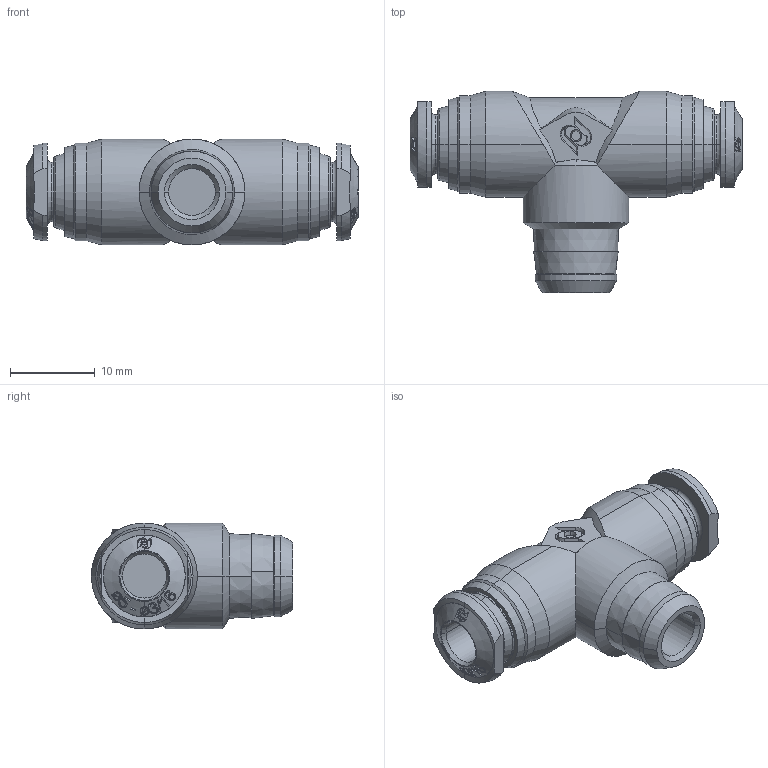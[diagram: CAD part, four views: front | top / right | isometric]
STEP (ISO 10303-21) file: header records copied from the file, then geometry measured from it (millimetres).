
FILE_DESCRIPTION (( 'STEP AP214' ), '1' );
FILE_NAME ('5020000010.step', '2012-10-01T16:47:54', ( '' ), ( '' ), 'SwSTEP 2.0', 'SolidWorks 2012', '' );
FILE_SCHEMA (( 'AUTOMOTIVE_DESIGN' ));
Length unit declared in the file: millimetre
Products named in the file (1): 5020000010
Bounding box: 39.2 x 23.75 x 12.5 mm (x, y, z)
Volume: 4603.5 mm3; surface area: 2966.8 mm2
Topology: 1 solids, 3 shells, 496 faces, 1293 edges, 846 vertices
Faces by surface type: bspline 256, cone 113, plane 56, cylinder 51, torus 20
Entity records: 34596 total; most frequent: CARTESIAN_POINT 19249, ORIENTED_EDGE 2586, EDGE_CURVE 1293, DIRECTION 1115, B_SPLINE_CURVE_WITH_KNOTS 870, VERTEX_POINT 846, EDGE_LOOP 543, UNCERTAINTY_MEASURE_WITH_UNIT 499
